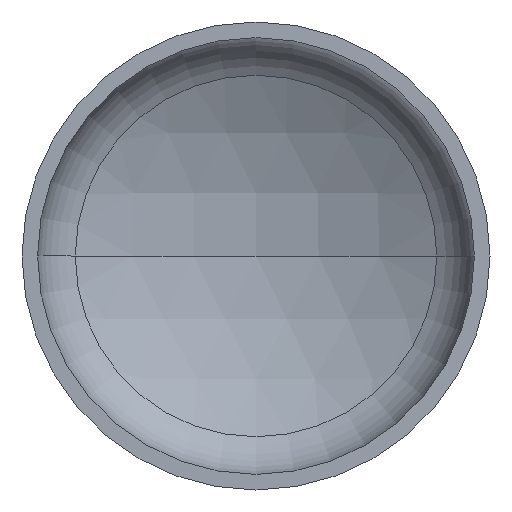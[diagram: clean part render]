
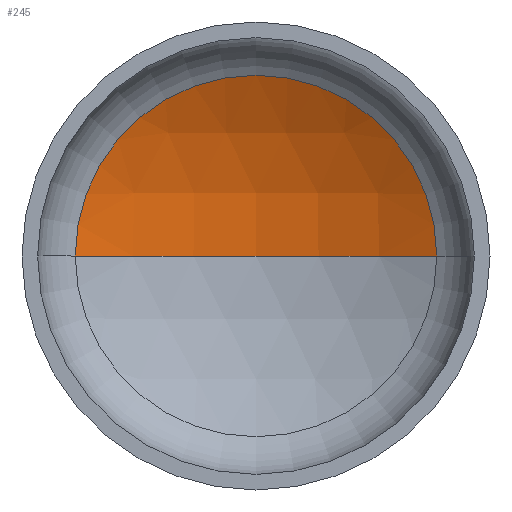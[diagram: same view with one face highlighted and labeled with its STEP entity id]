
A CAD part, front view. The second image highlights one B-rep face of the part: STEP entity #245.
In plain terms, the highlighted spherical face has radius 720 mm.
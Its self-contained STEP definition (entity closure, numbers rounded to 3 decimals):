
#13 = ORIENTED_EDGE ( 'NONE', *, *, #75, .T. ) ;
#16 = EDGE_LOOP ( 'NONE', ( #141, #13, #127 ) ) ;
#17 = AXIS2_PLACEMENT_3D ( 'NONE', #55, #248, #38 ) ;
#32 = VERTEX_POINT ( 'NONE', #284 ) ;
#33 = AXIS2_PLACEMENT_3D ( 'NONE', #197, #198, #370 ) ;
#36 = AXIS2_PLACEMENT_3D ( 'NONE', #224, #215, #206 ) ;
#37 = AXIS2_PLACEMENT_3D ( 'NONE', #304, #301, #297 ) ;
#38 = DIRECTION ( 'NONE',  ( -1., 0., 0. ) ) ;
#55 = CARTESIAN_POINT ( 'NONE',  ( 0., -417.937, 0. ) ) ;
#61 = VERTEX_POINT ( 'NONE', #253 ) ;
#74 = EDGE_CURVE ( 'NONE', #95, #32, #148, .T. ) ;
#75 = EDGE_CURVE ( 'NONE', #61, #95, #392, .T. ) ;
#76 = EDGE_CURVE ( 'NONE', #61, #32, #276, .T. ) ;
#91 = SPHERICAL_SURFACE ( 'NONE', #17, 720. ) ;
#95 = VERTEX_POINT ( 'NONE', #209 ) ;
#127 = ORIENTED_EDGE ( 'NONE', *, *, #74, .T. ) ;
#141 = ORIENTED_EDGE ( 'NONE', *, *, #76, .F. ) ;
#148 = CIRCLE ( 'NONE', #37, 347.586 ) ;
#197 = CARTESIAN_POINT ( 'NONE',  ( 0., -417.937, 0. ) ) ;
#198 = DIRECTION ( 'NONE',  ( 0., 0., 1. ) ) ;
#206 = DIRECTION ( 'NONE',  ( -1., 0., 0. ) ) ;
#209 = CARTESIAN_POINT ( 'NONE',  ( 347.586, 212.605, 0. ) ) ;
#215 = DIRECTION ( 'NONE',  ( 0., 0., -1. ) ) ;
#224 = CARTESIAN_POINT ( 'NONE',  ( 0., -417.937, 0. ) ) ;
#245 = ADVANCED_FACE ( 'NONE', ( #267 ), #91, .F. ) ;
#248 = DIRECTION ( 'NONE',  ( 0., 0., -1. ) ) ;
#253 = CARTESIAN_POINT ( 'NONE',  ( 0., 302.063, 0. ) ) ;
#267 = FACE_OUTER_BOUND ( 'NONE', #16, .T. ) ;
#276 = CIRCLE ( 'NONE', #33, 720. ) ;
#284 = CARTESIAN_POINT ( 'NONE',  ( -347.586, 212.605, 0. ) ) ;
#297 = DIRECTION ( 'NONE',  ( 1., 0., 0. ) ) ;
#301 = DIRECTION ( 'NONE',  ( 0., -1., 0. ) ) ;
#304 = CARTESIAN_POINT ( 'NONE',  ( 0., 212.605, 0. ) ) ;
#370 = DIRECTION ( 'NONE',  ( 1., 0., 0. ) ) ;
#392 = CIRCLE ( 'NONE', #36, 720. ) ;
